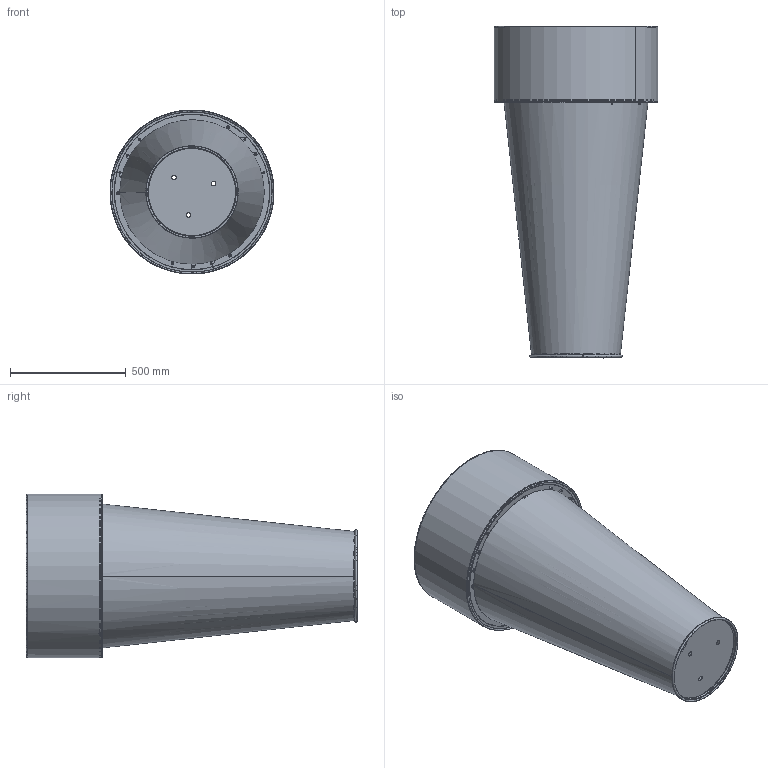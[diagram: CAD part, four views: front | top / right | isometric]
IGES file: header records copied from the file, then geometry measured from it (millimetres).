
Start section: SolidWorks IGES file using analytic representation for surfaces
Global section: file name: C:\VaultDeCastelli\Progetti\DC\PESO LEGGERO PRODOTTI\Ale\DeCastelli-3D-Delta 140.igs; native system: SolidWorks 2022; preprocessor: SolidWorks 2022; author: AlessandroP; date: 240802.102814; units: millimetre
Bounding box: 706.75 x 1430.34 x 706.63 mm (x, y, z)
Surface area: 5962755 mm2 (no closed solid volume)
Topology: 0 solids, 0 shells, 153 faces, 2977 edges, 2977 vertices
Faces by surface type: bspline 88, revolution 65
